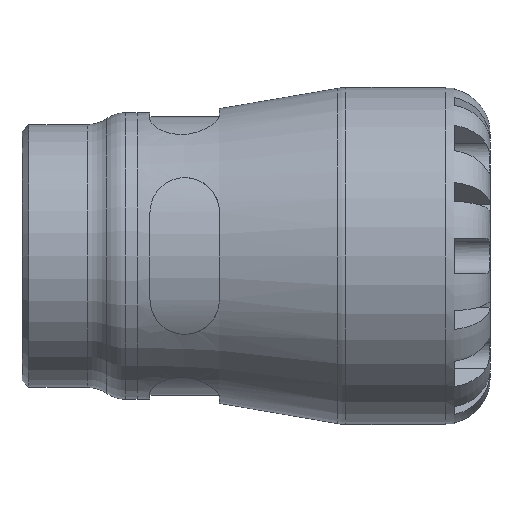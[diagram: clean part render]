
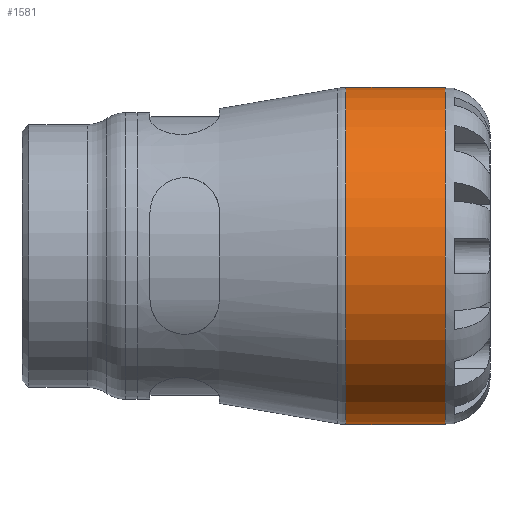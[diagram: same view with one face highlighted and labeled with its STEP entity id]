
A CAD part, front view. The second image highlights one B-rep face of the part: STEP entity #1581.
In plain terms, the highlighted cylindrical face has radius 42.5 mm (diameter 85 mm), a full revolution.
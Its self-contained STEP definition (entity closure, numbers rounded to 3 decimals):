
#31=FACE_BOUND('',#415,.T.);
#299=FACE_OUTER_BOUND('',#414,.T.);
#414=EDGE_LOOP('',(#1170));
#415=EDGE_LOOP('',(#1171));
#553=CIRCLE('',#1740,42.5);
#554=CIRCLE('',#1742,42.5);
#724=VERTEX_POINT('',#2817);
#725=VERTEX_POINT('',#2820);
#895=EDGE_CURVE('',#724,#724,#553,.T.);
#896=EDGE_CURVE('',#725,#725,#554,.T.);
#1170=ORIENTED_EDGE('',*,*,#896,.F.);
#1171=ORIENTED_EDGE('',*,*,#895,.F.);
#1531=CYLINDRICAL_SURFACE('',#1741,42.5);
#1581=ADVANCED_FACE('',(#299,#31),#1531,.T.);
#1740=AXIS2_PLACEMENT_3D('',#2818,#2037,#2038);
#1741=AXIS2_PLACEMENT_3D('',#2819,#2039,#2040);
#1742=AXIS2_PLACEMENT_3D('',#2821,#2041,#2042);
#2037=DIRECTION('center_axis',(-1.,0.,0.));
#2038=DIRECTION('ref_axis',(0.,-1.,0.));
#2039=DIRECTION('center_axis',(1.,0.,0.));
#2040=DIRECTION('ref_axis',(0.,1.,0.));
#2041=DIRECTION('center_axis',(1.,0.,0.));
#2042=DIRECTION('ref_axis',(0.,0.,-1.));
#2817=CARTESIAN_POINT('',(81.659,42.5,0.));
#2818=CARTESIAN_POINT('Origin',(81.659,0.,0.));
#2819=CARTESIAN_POINT('Origin',(93.685,0.,0.));
#2820=CARTESIAN_POINT('',(106.75,42.5,0.));
#2821=CARTESIAN_POINT('Origin',(106.75,0.,0.));
